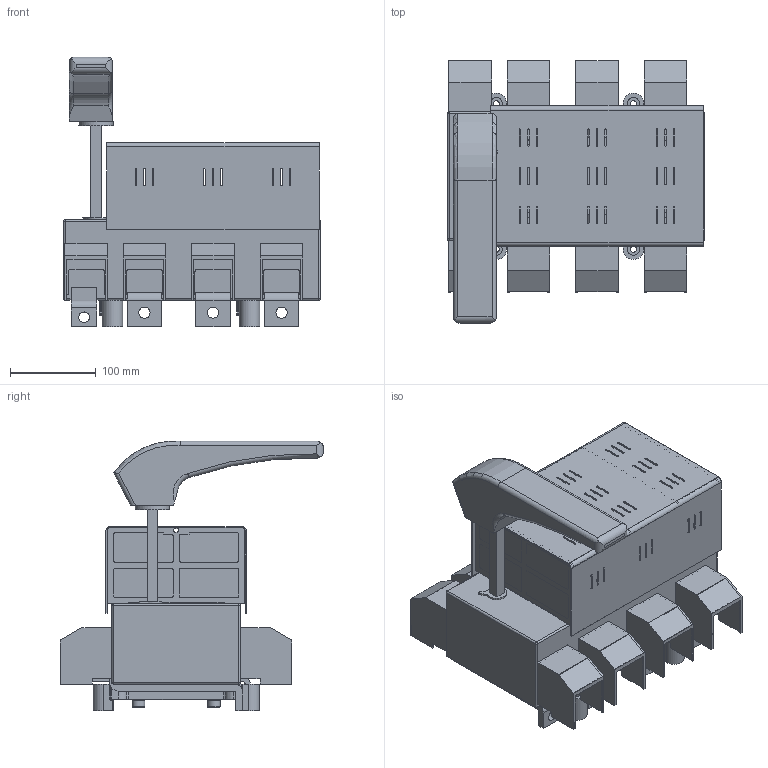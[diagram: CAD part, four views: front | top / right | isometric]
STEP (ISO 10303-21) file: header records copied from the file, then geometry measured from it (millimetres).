
FILE_DESCRIPTION(/* description */ (''),/* implementation_level */ '2;1');
FILE_NAME(/* name */ 'RAB 3 P3 NA-R.stp',/* time_stamp */ '2021-08-19T14:43:24+02:00',/* author */ (''),/* organization */ (''),/* preprocessor_version */ 'ST-DEVELOPER v18.1',/* originating_system */ 'SIEMENS PLM Software NX 1965',/* authorisation */ '');
FILE_SCHEMA (('AUTOMOTIVE_DESIGN { 1 0 10303 214 3 1 1 1 }'));
Length unit declared in the file: millimetre
Products named in the file (1): RAB 3 P3 NA-R
Bounding box: 300 x 307 x 314.5 mm (x, y, z)
Volume: 5117325.6 mm3; surface area: 884627.3 mm2
Topology: 9 solids, 22 shells, 1814 faces, 4928 edges, 3180 vertices
Faces by surface type: plane 1116, cylinder 582, bspline 52, torus 48, sphere 8, cone 8
Full cylindrical faces by diameter (mm): 3 x4, 4.8 x4, 5.2 x2, 5.6 x4, 6.5 x26, 7 x4, 10.5 x26, 12.5 x1, 13 x7, 13.5 x4, 14 x4, 15 x4, 40 x1
Entity records: 59587 total; most frequent: CARTESIAN_POINT 13578, ORIENTED_EDGE 9542, DIRECTION 9406, EDGE_CURVE 4771, LINE 3362, VECTOR 3362, VERTEX_POINT 3143, AXIS2_PLACEMENT_3D 3022
